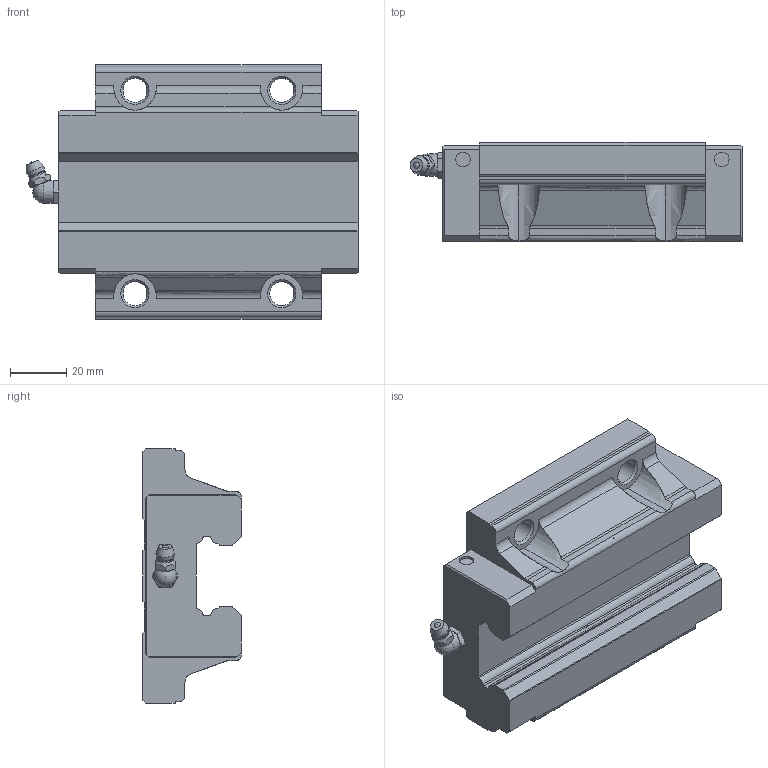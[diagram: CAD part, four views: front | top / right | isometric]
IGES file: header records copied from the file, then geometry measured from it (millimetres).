
Start section: Data from Parasolid IGES Translator 26.0.171, Copyright(c) 2006 Siemens PLM Software. All Rights Reserved.
Global section: file name: SHS30C1SS(GK) BLOCK(B-M6F1).igs; native system: By Siemens PLM Incorporated; preprocessor: XPlus GENERIC/IGES 26.0.171; author: Noname; organization: Noname; date: 20240513.221024; units: millimetre
Bounding box: 117.6 x 35 x 90 mm (x, y, z)
Surface area: 33947.3 mm2 (no closed solid volume)
Topology: 0 solids, 0 shells, 182 faces, 1000 edges, 978 vertices
Faces by surface type: extrusion 98, revolution 84
